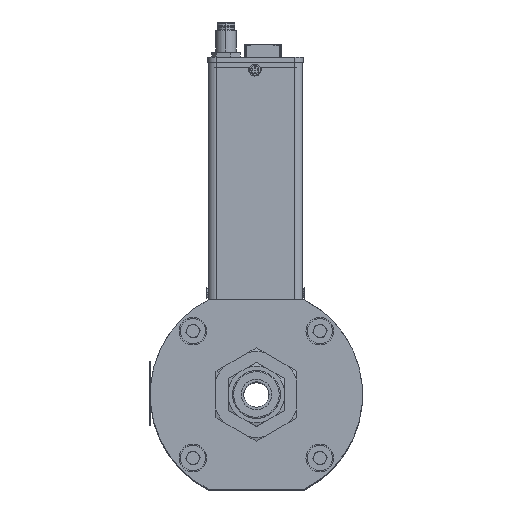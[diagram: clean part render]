
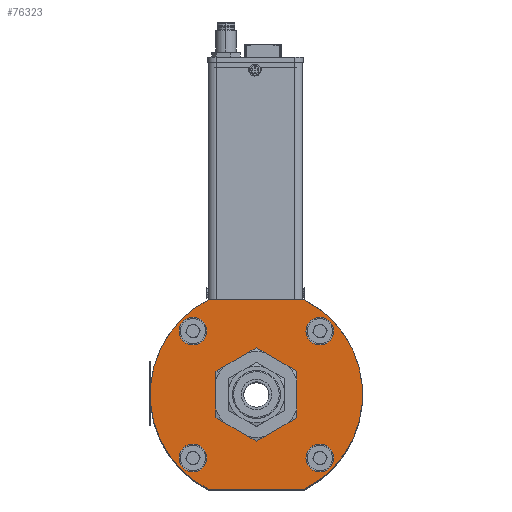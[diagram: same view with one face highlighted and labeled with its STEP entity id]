
A CAD part, top view. The second image highlights one B-rep face of the part: STEP entity #76323.
In plain terms, the highlighted planar face has unit normal (0, 0, 1).
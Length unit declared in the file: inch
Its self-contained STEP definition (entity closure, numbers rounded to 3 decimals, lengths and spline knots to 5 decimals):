
#662 = DIRECTION ( 'NONE',  ( 0., 1., 0. ) ) ;
#994 = EDGE_CURVE ( 'NONE', #66263, #88529, #69726, .T. ) ;
#1392 = CARTESIAN_POINT ( 'NONE',  ( 0.7659, -0.00287, 0. ) ) ;
#1427 = AXIS2_PLACEMENT_3D ( 'NONE', #19342, #46928, #3976 ) ;
#1557 = DIRECTION ( 'NONE',  ( 0., 0., 1. ) ) ;
#1885 = FACE_BOUND ( 'NONE', #51312, .T. ) ;
#1924 = DIRECTION ( 'NONE',  ( 0., -1., 0. ) ) ;
#2217 = VERTEX_POINT ( 'NONE', #16639 ) ;
#3834 = CARTESIAN_POINT ( 'NONE',  ( -0.97479, 0.48129, 0. ) ) ;
#3976 = DIRECTION ( 'NONE',  ( 0., -1., 0. ) ) ;
#4117 = CIRCLE ( 'NONE', #54696, 0.21654 ) ;
#4120 = EDGE_CURVE ( 'NONE', #24757, #76631, #39192, .T. ) ;
#4159 = EDGE_CURVE ( 'NONE', #12464, #55713, #26183, .T. ) ;
#4258 = EDGE_CURVE ( 'NONE', #88227, #86838, #15559, .T. ) ;
#4281 = CARTESIAN_POINT ( 'NONE',  ( 0.01349, 1.46957, 0. ) ) ;
#4719 = CIRCLE ( 'NONE', #81451, 0.5748 ) ;
#5435 = EDGE_LOOP ( 'NONE', ( #29676, #58880 ) ) ;
#5693 = VERTEX_POINT ( 'NONE', #72296 ) ;
#6130 = DIRECTION ( 'NONE',  ( 0., 0., -1. ) ) ;
#7596 = VERTEX_POINT ( 'NONE', #8720 ) ;
#8038 = ORIENTED_EDGE ( 'NONE', *, *, #994, .T. ) ;
#8183 = ORIENTED_EDGE ( 'NONE', *, *, #22080, .T. ) ;
#8679 = FACE_BOUND ( 'NONE', #5435, .T. ) ;
#8720 = CARTESIAN_POINT ( 'NONE',  ( 1.00177, 2.67439, 0. ) ) ;
#8792 = CARTESIAN_POINT ( 'NONE',  ( 0.01349, -0.00287, 0. ) ) ;
#8925 = DIRECTION ( 'NONE',  ( 0., 0., -1. ) ) ;
#9233 = CARTESIAN_POINT ( 'NONE',  ( -0.73892, 2.94202, 0. ) ) ;
#10263 = CARTESIAN_POINT ( 'NONE',  ( 0.01349, 1.46957, 0. ) ) ;
#11925 = AXIS2_PLACEMENT_3D ( 'NONE', #29151, #1557, #662 ) ;
#12418 = CARTESIAN_POINT ( 'NONE',  ( -0.97479, 2.45785, 0. ) ) ;
#12464 = VERTEX_POINT ( 'NONE', #28962 ) ;
#12869 = AXIS2_PLACEMENT_3D ( 'NONE', #12418, #82642, #20542 ) ;
#15466 = CARTESIAN_POINT ( 'NONE',  ( 0.01349, 1.46957, 0. ) ) ;
#15559 = LINE ( 'NONE', #8792, #81210 ) ;
#16639 = CARTESIAN_POINT ( 'NONE',  ( -0.97479, 2.67439, 0. ) ) ;
#17549 = AXIS2_PLACEMENT_3D ( 'NONE', #89054, #6130, #54089 ) ;
#18967 = AXIS2_PLACEMENT_3D ( 'NONE', #55414, #20588, #68182 ) ;
#19302 = CARTESIAN_POINT ( 'NONE',  ( 0.01349, 2.04438, 0. ) ) ;
#19342 = CARTESIAN_POINT ( 'NONE',  ( 1.00177, 2.45785, 0. ) ) ;
#20542 = DIRECTION ( 'NONE',  ( 0., -1., 0. ) ) ;
#20588 = DIRECTION ( 'NONE',  ( 0., 0., -1. ) ) ;
#22080 = EDGE_CURVE ( 'NONE', #86838, #66263, #39392, .T. ) ;
#22653 = ORIENTED_EDGE ( 'NONE', *, *, #48753, .T. ) ;
#22713 = CARTESIAN_POINT ( 'NONE',  ( 1.00177, 2.45785, 0. ) ) ;
#22767 = ORIENTED_EDGE ( 'NONE', *, *, #4258, .T. ) ;
#23887 = CARTESIAN_POINT ( 'NONE',  ( -0.73892, -0.00287, 0. ) ) ;
#24265 = CARTESIAN_POINT ( 'NONE',  ( 1.00177, 0.48129, 0. ) ) ;
#24457 = CARTESIAN_POINT ( 'NONE',  ( 1.00177, 0.26476, 0. ) ) ;
#24632 = DIRECTION ( 'NONE',  ( 0., 0., 1. ) ) ;
#24757 = VERTEX_POINT ( 'NONE', #53174 ) ;
#26183 = CIRCLE ( 'NONE', #17549, 0.21654 ) ;
#26987 = CARTESIAN_POINT ( 'NONE',  ( 0.01349, 1.46957, 0. ) ) ;
#27250 = FACE_OUTER_BOUND ( 'NONE', #89095, .T. ) ;
#27365 = AXIS2_PLACEMENT_3D ( 'NONE', #24265, #58238, #86834 ) ;
#28604 = EDGE_CURVE ( 'NONE', #55713, #12464, #36036, .T. ) ;
#28648 = AXIS2_PLACEMENT_3D ( 'NONE', #10263, #8925, #79147 ) ;
#28962 = CARTESIAN_POINT ( 'NONE',  ( 1.00177, 0.69783, 0. ) ) ;
#29151 = CARTESIAN_POINT ( 'NONE',  ( 0.01349, 1.46957, 0. ) ) ;
#29676 = ORIENTED_EDGE ( 'NONE', *, *, #28604, .T. ) ;
#30531 = DIRECTION ( 'NONE',  ( 0., 1., 0. ) ) ;
#32121 = EDGE_LOOP ( 'NONE', ( #56888, #87852 ) ) ;
#35418 = FACE_BOUND ( 'NONE', #47867, .T. ) ;
#36036 = CIRCLE ( 'NONE', #27365, 0.21654 ) ;
#37554 = CIRCLE ( 'NONE', #1427, 0.21654 ) ;
#38761 = VERTEX_POINT ( 'NONE', #19302 ) ;
#39192 = CIRCLE ( 'NONE', #18967, 0.21654 ) ;
#39392 = CIRCLE ( 'NONE', #11925, 1.65354 ) ;
#41734 = DIRECTION ( 'NONE',  ( 0., 0., 1. ) ) ;
#41806 = AXIS2_PLACEMENT_3D ( 'NONE', #15466, #41734, #69859 ) ;
#42185 = FACE_BOUND ( 'NONE', #45817, .T. ) ;
#42424 = DIRECTION ( 'NONE',  ( 0., -1., 0. ) ) ;
#45817 = EDGE_LOOP ( 'NONE', ( #84396, #68362 ) ) ;
#46022 = CIRCLE ( 'NONE', #28648, 0.5748 ) ;
#46916 = EDGE_CURVE ( 'NONE', #38761, #76468, #46022, .T. ) ;
#46928 = DIRECTION ( 'NONE',  ( 0., 0., -1. ) ) ;
#47038 = EDGE_CURVE ( 'NONE', #76631, #24757, #4117, .T. ) ;
#47789 = DIRECTION ( 'NONE',  ( 0., 1., 0. ) ) ;
#47867 = EDGE_LOOP ( 'NONE', ( #72813, #47935 ) ) ;
#47935 = ORIENTED_EDGE ( 'NONE', *, *, #68560, .T. ) ;
#48753 = EDGE_CURVE ( 'NONE', #88529, #88227, #57849, .T. ) ;
#50082 = DIRECTION ( 'NONE',  ( 0., 0., -1. ) ) ;
#50429 = ORIENTED_EDGE ( 'NONE', *, *, #64610, .T. ) ;
#51312 = EDGE_LOOP ( 'NONE', ( #65835, #50429 ) ) ;
#52856 = AXIS2_PLACEMENT_3D ( 'NONE', #79028, #63161, #64935 ) ;
#53174 = CARTESIAN_POINT ( 'NONE',  ( -0.97479, 0.26476, 0. ) ) ;
#53531 = AXIS2_PLACEMENT_3D ( 'NONE', #4281, #24632, #30531 ) ;
#54089 = DIRECTION ( 'NONE',  ( 0., -1., 0. ) ) ;
#54696 = AXIS2_PLACEMENT_3D ( 'NONE', #3834, #50082, #42424 ) ;
#55376 = VECTOR ( 'NONE', #70586, 39.37008 ) ;
#55414 = CARTESIAN_POINT ( 'NONE',  ( -0.97479, 0.48129, 0. ) ) ;
#55713 = VERTEX_POINT ( 'NONE', #24457 ) ;
#56594 = VERTEX_POINT ( 'NONE', #71830 ) ;
#56888 = ORIENTED_EDGE ( 'NONE', *, *, #60208, .T. ) ;
#57849 = CIRCLE ( 'NONE', #53531, 1.65354 ) ;
#58238 = DIRECTION ( 'NONE',  ( 0., 0., -1. ) ) ;
#58880 = ORIENTED_EDGE ( 'NONE', *, *, #4159, .T. ) ;
#60208 = EDGE_CURVE ( 'NONE', #56594, #2217, #89089, .T. ) ;
#63161 = DIRECTION ( 'NONE',  ( 0., 0., -1. ) ) ;
#63476 = CARTESIAN_POINT ( 'NONE',  ( 0.01349, 0.89477, 0. ) ) ;
#63950 = EDGE_CURVE ( 'NONE', #2217, #56594, #79441, .T. ) ;
#64610 = EDGE_CURVE ( 'NONE', #7596, #5693, #37554, .T. ) ;
#64935 = DIRECTION ( 'NONE',  ( 0., -1., 0. ) ) ;
#65177 = CIRCLE ( 'NONE', #76767, 0.21654 ) ;
#65835 = ORIENTED_EDGE ( 'NONE', *, *, #77797, .T. ) ;
#66263 = VERTEX_POINT ( 'NONE', #72932 ) ;
#68182 = DIRECTION ( 'NONE',  ( 0., -1., 0. ) ) ;
#68362 = ORIENTED_EDGE ( 'NONE', *, *, #47038, .T. ) ;
#68560 = EDGE_CURVE ( 'NONE', #76468, #38761, #4719, .T. ) ;
#69726 = LINE ( 'NONE', #76509, #55376 ) ;
#69859 = DIRECTION ( 'NONE',  ( 0., 1., 0. ) ) ;
#70586 = DIRECTION ( 'NONE',  ( -1., 0., 0. ) ) ;
#71830 = CARTESIAN_POINT ( 'NONE',  ( -0.97479, 2.24132, 0. ) ) ;
#72296 = CARTESIAN_POINT ( 'NONE',  ( 1.00177, 2.24132, 0. ) ) ;
#72813 = ORIENTED_EDGE ( 'NONE', *, *, #46916, .T. ) ;
#72932 = CARTESIAN_POINT ( 'NONE',  ( 0.7659, 2.94202, 0. ) ) ;
#76323 = ADVANCED_FACE ( 'NONE', ( #27250, #35418, #1885, #84341, #8679, #42185 ), #77983, .T. ) ;
#76468 = VERTEX_POINT ( 'NONE', #63476 ) ;
#76509 = CARTESIAN_POINT ( 'NONE',  ( 0.01349, 2.94202, 0. ) ) ;
#76631 = VERTEX_POINT ( 'NONE', #82372 ) ;
#76767 = AXIS2_PLACEMENT_3D ( 'NONE', #22713, #84822, #1924 ) ;
#77797 = EDGE_CURVE ( 'NONE', #5693, #7596, #65177, .T. ) ;
#77983 = PLANE ( 'NONE',  #41806 ) ;
#79028 = CARTESIAN_POINT ( 'NONE',  ( -0.97479, 2.45785, 0. ) ) ;
#79147 = DIRECTION ( 'NONE',  ( 0., 1., 0. ) ) ;
#79441 = CIRCLE ( 'NONE', #12869, 0.21654 ) ;
#81210 = VECTOR ( 'NONE', #83995, 39.37008 ) ;
#81451 = AXIS2_PLACEMENT_3D ( 'NONE', #26987, #82297, #47789 ) ;
#82297 = DIRECTION ( 'NONE',  ( 0., 0., -1. ) ) ;
#82372 = CARTESIAN_POINT ( 'NONE',  ( -0.97479, 0.69783, 0. ) ) ;
#82642 = DIRECTION ( 'NONE',  ( 0., 0., -1. ) ) ;
#83995 = DIRECTION ( 'NONE',  ( 1., 0., 0. ) ) ;
#84341 = FACE_BOUND ( 'NONE', #32121, .T. ) ;
#84396 = ORIENTED_EDGE ( 'NONE', *, *, #4120, .T. ) ;
#84822 = DIRECTION ( 'NONE',  ( 0., 0., -1. ) ) ;
#86834 = DIRECTION ( 'NONE',  ( 0., -1., 0. ) ) ;
#86838 = VERTEX_POINT ( 'NONE', #1392 ) ;
#87852 = ORIENTED_EDGE ( 'NONE', *, *, #63950, .T. ) ;
#88227 = VERTEX_POINT ( 'NONE', #23887 ) ;
#88529 = VERTEX_POINT ( 'NONE', #9233 ) ;
#89054 = CARTESIAN_POINT ( 'NONE',  ( 1.00177, 0.48129, 0. ) ) ;
#89089 = CIRCLE ( 'NONE', #52856, 0.21654 ) ;
#89095 = EDGE_LOOP ( 'NONE', ( #8038, #22653, #22767, #8183 ) ) ;
